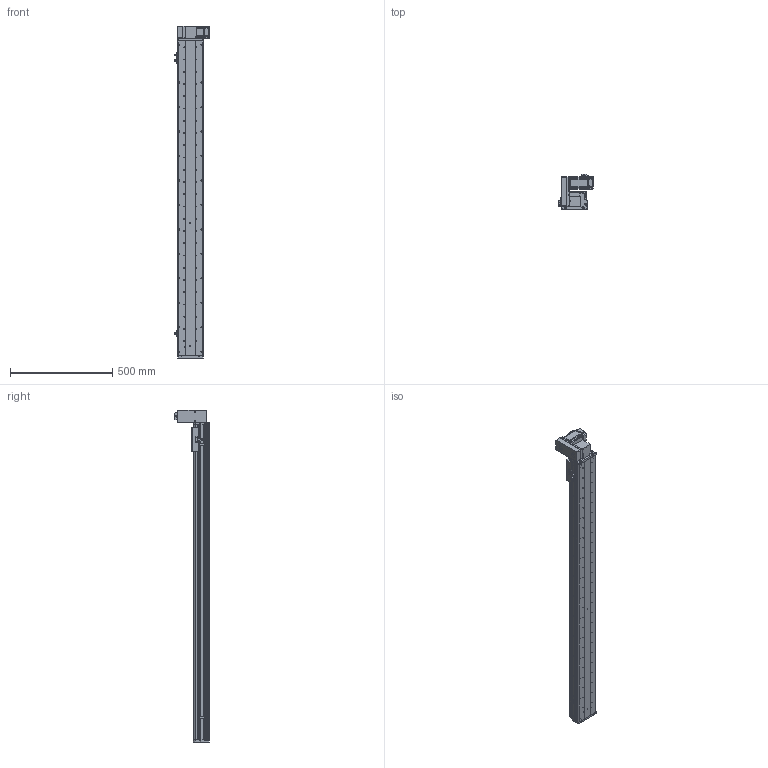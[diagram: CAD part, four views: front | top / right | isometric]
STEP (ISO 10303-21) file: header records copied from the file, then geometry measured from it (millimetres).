
FILE_DESCRIPTION (( 'STEP AP214' ), '1' );
FILE_NAME ('KSD125B-S1350-MRU-CM.STEP', '2017-10-21T07:48:36', ( '微软用户' ), ( '微软中国' ), 'SwSTEP 2.0', 'SolidWorks 2014', '' );
FILE_SCHEMA (( 'AUTOMOTIVE_DESIGN' ));
Length unit declared in the file: millimetre
Products named in the file (17): U倰嫖萇EEㄜSX672; KSD125模组同步带-防撞垫1; 100宽马达安装板同步带右; 前端板-125宽模组同步带; 125模组同步带-尾端板1; KSD125模组同步带-滑动座1; KSD125B-S1350-MRU-CM; 悵誘欶奻狟殏; HTPA30S3M150_A_H6_a佪裝蚚; HTPA30S3M150_A_H6_a萇儂蚚; 100宽马达安装板连板上下折丝杆同步带; KSD125模组1350行程同步带-防尘盖; 125模组1350行程同步带-底板; MHMD042G1CA_2_03; KSD125模组同步带-防撞垫2; 覜茼え68遵圉猾敕; U倰嫖萇假蚾璃
Assembly tree (20 placements, depth 2):
  KSD125B-S1350-MRU-CM
    KSD125模组同步带-滑动座1
    125模组同步带-尾端板1
    前端板-125宽模组同步带
    100宽马达安装板同步带右
    KSD125模组同步带-防撞垫1
    U倰嫖萇EEㄜSX672  x3
    U倰嫖萇假蚾璃  x3
    覜茼え68遵圉猾敕
    KSD125模组同步带-防撞垫2
    MHMD042G1CA_2_03
    125模组1350行程同步带-底板
    KSD125模组1350行程同步带-防尘盖
    100宽马达安装板连板上下折丝杆同步带
    HTPA30S3M150_A_H6_a萇儂蚚
    HTPA30S3M150_A_H6_a佪裝蚚
    悵誘欶奻狟殏
Bounding box: 168.7 x 170.5 x 1627 mm (x, y, z)
Volume: 4860166.7 mm3; surface area: 1614966.4 mm2
Topology: 19 solids, 22 shells, 2365 faces, 6859 edges, 4534 vertices
Faces by surface type: cylinder 1504, plane 734, cone 105, bspline 22
Entity records: 84593 total; most frequent: CARTESIAN_POINT 16653, DIRECTION 13140, ORIENTED_EDGE 12238, EDGE_CURVE 6197, AXIS2_PLACEMENT_3D 5097, VERTEX_POINT 4126, CIRCLE 2950, LINE 2946
